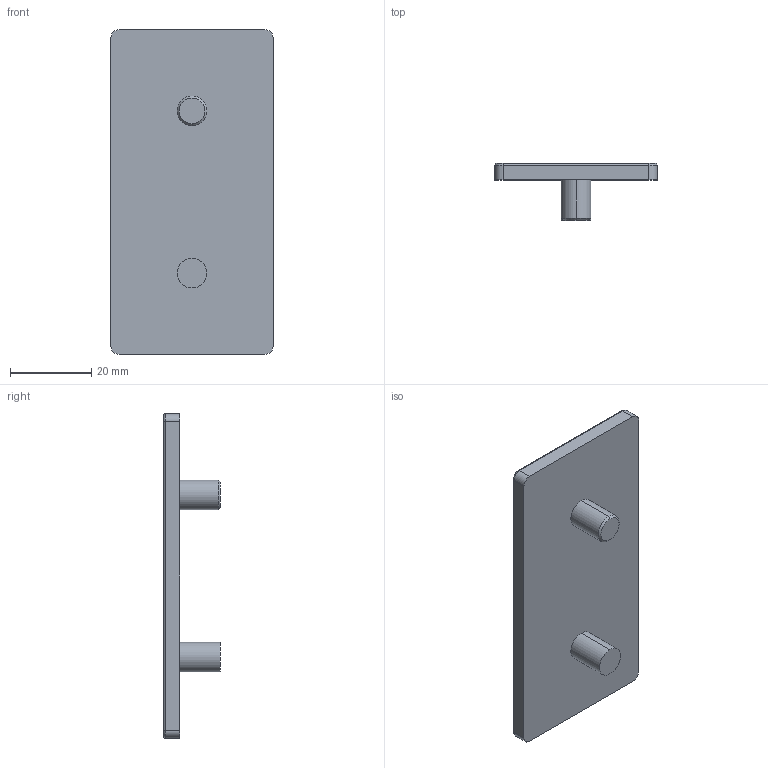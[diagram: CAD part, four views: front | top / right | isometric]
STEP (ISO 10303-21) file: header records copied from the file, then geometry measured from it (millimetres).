
FILE_DESCRIPTION (( 'STEP AP214' ), '1' );
FILE_NAME ('4080-cover.STEP', '2019-01-04T16:30:57', ( '' ), ( '' ), 'SwSTEP 2.0', 'SolidWorks 2018', '' );
FILE_SCHEMA (( 'AUTOMOTIVE_DESIGN' ));
Length unit declared in the file: millimetre
Products named in the file (1): 4080-cover
Bounding box: 40 x 14 x 80 mm (x, y, z)
Volume: 13608 mm3; surface area: 7740.1 mm2
Topology: 1 solids, 1 shells, 26 faces, 56 edges, 34 vertices
Faces by surface type: cylinder 12, plane 8, torus 4, cone 2
Entity records: 744 total; most frequent: DIRECTION 140, CARTESIAN_POINT 117, ORIENTED_EDGE 112, AXIS2_PLACEMENT_3D 57, EDGE_CURVE 56, VERTEX_POINT 34, CIRCLE 30, EDGE_LOOP 28
